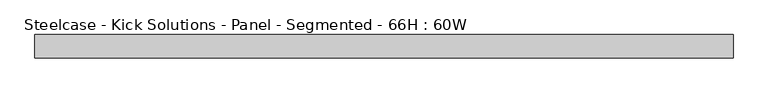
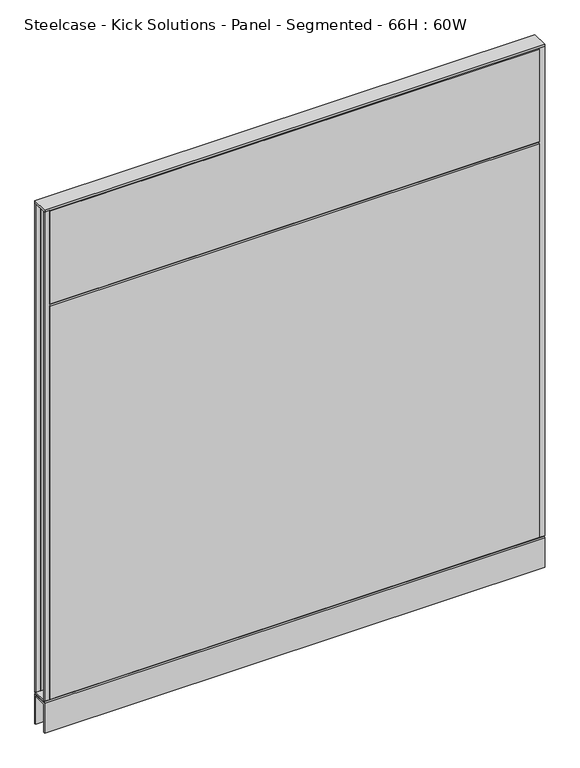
"""IFC4 building model written with IfcOpenShell, lengths in millimetres: furniture geometry, Steelcase - Kick Solutions - Panel - Segmented - 66H : 60W."""

from ifc_helpers import new_model, si_unit, frame, origin, place, context, project, spatial, polyline, outline, extrude, source, transform, mapped, element, save


def steelcase_kick_solutions_panel_segmented_66h_60w_cd06268b(model_context):
    return source(origin(), model_context, "Body", "SweptSolid", [
        extrude(outline(polyline([(1.5e-06, 101.600003), (-3.175, 101.600003), (-3.175, 1676.4), (1.5e-06, 1673.3188448), (1.5e-06, 101.600003)])), frame((15.8749996, 0.0, 0.0), z_axis=(1.0, 0.0, 0.0), x_axis=(0.0, 1.0, 0.0)), (0.0, 0.0, 1.0), 1492.2500008),
        extrude(outline(polyline([(-50.8000015, 1374.6811552), (-50.8000015, 1673.3188448), (-47.625, 1676.4), (-47.625, 1371.6), (-50.8000015, 1374.6811552)])), frame((15.8749996, 0.0, 0.0), z_axis=(1.0, 0.0, 0.0), x_axis=(0.0, 1.0, 0.0)), (0.0, 0.0, 1.0), 1492.2500008),
        extrude(outline(polyline([(-50.8000015, 101.600003), (-50.8000015, 1368.5188448), (-47.625, 1371.6), (-47.625, 101.600003), (-50.8000015, 101.600003)])), frame((15.8749996, 0.0, 0.0), z_axis=(1.0, 0.0, 0.0), x_axis=(0.0, 1.0, 0.0)), (0.0, 0.0, 1.0), 1492.2500008),
        extrude(outline(polyline([(1524.0, -3.1750015), (1508.1250004, -3.1750015), (1508.1250004, 0.0), (1524.0, 0.0), (1524.0, -3.1750015)])), frame((0.0, 0.0, 101.7169049), z_axis=(0.0, 0.0, 1.0), x_axis=(1.0, 0.0, 0.0)), (0.0, 0.0, 1.0), 1574.799997),
        extrude(outline(polyline([(15.8749996, -50.8000015), (0.0, -50.8000015), (0.0, -47.625), (15.8749996, -47.625), (15.8749996, -50.8000015)])), frame((0.0, 0.0, 101.7169049), z_axis=(0.0, 0.0, 1.0), x_axis=(1.0, 0.0, 0.0)), (0.0, 0.0, 1.0), 1574.799997),
        extrude(outline(polyline([(-50.7995075, 101.7169049), (-0.000494, 101.7169049), (-3.0583512, 98.5421458), (-47.7416503, 98.5421458), (-50.7995075, 101.7169049)])), frame((0.0, 0.0, 0.0), z_axis=(1.0, 0.0, 0.0), x_axis=(0.0, 1.0, 0.0)), (0.0, 0.0, 1.0), 1524.0),
        extrude(outline(polyline([(1524.0, 0.0), (1524.0, -50.8000015), (0.0, -50.8000015), (0.0, 0.0), (1524.0, 0.0)])), frame((0.0, 0.0, 1676.5169018), z_axis=(0.0, 0.0, 1.0), x_axis=(1.0, 0.0, 0.0)), (0.0, 0.0, 1.0), 6.35),
        extrude(outline(polyline([(15.8749996, -3.1750015), (0.0, -3.1750015), (0.0, 0.0), (15.8749996, 0.0), (15.8749996, -3.1750015)])), frame((0.0, 0.0, 101.7169049), z_axis=(0.0, 0.0, 1.0), x_axis=(1.0, 0.0, 0.0)), (0.0, 0.0, 1.0), 1574.799997),
        extrude(outline(polyline([(1524.0, -50.8000015), (1508.1250004, -50.8000015), (1508.1250004, -47.625), (1524.0, -47.625), (1524.0, -50.8000015)])), frame((0.0, 0.0, 101.7169049), z_axis=(0.0, 0.0, 1.0), x_axis=(1.0, 0.0, 0.0)), (0.0, 0.0, 1.0), 1574.799997),
        extrude(outline(polyline([(-50.8000015, 95.3668927), (-47.6247484, 98.5421458), (-3.1752531, 98.5421458), (0.0, 95.3668927), (-50.8000015, 95.3668927)])), frame((0.0, 0.0, 0.0), z_axis=(1.0, 0.0, 0.0), x_axis=(0.0, 1.0, 0.0)), (0.0, 0.0, 1.0), 1524.0),
        extrude(outline(polyline([(0.0, 0.0), (-5.08, 0.0), (-5.08, 90.2869018), (-45.7200015, 90.2869018), (-45.7200015, 0.0), (-50.8000015, 0.0), (-50.8000015, 95.3669018), (0.0, 95.3669018), (0.0, 0.0)])), frame((0.0, 0.0, 0.0), z_axis=(1.0, 0.0, 0.0), x_axis=(0.0, 1.0, 0.0)), (0.0, 0.0, 1.0), 1524.0),
    ])


if __name__ == "__main__":
    model = new_model("IFC4")
    model_context = context("Model", 3, world=origin())
    ifc_project = project(units=[si_unit("LENGTHUNIT", "METRE", prefix="MILLI")], contexts=[model_context])
    site = spatial("IfcSite", under=ifc_project)
    building = spatial("IfcBuilding", under=site)
    placement = place(None, origin())
    steelcase_kick_solutions_panel_segmented_66h_60w_shape = steelcase_kick_solutions_panel_segmented_66h_60w_cd06268b(model_context)
    element("IfcFurniture", 1, ObjectType="Steelcase - Kick Solutions - Panel - Segmented - 66H : 60W", at=placement, inside=building, context=model_context, shape_type="MappedRepresentation", body=[
        mapped(steelcase_kick_solutions_panel_segmented_66h_60w_shape, transform((0.0, 0.0, 0.0), x_axis=(1.0, 0.0, 0.0), y_axis=(0.0, 1.0, 0.0), z_axis=(0.0, 0.0, 1.0))),
    ])
    save(model, "model.ifc")
